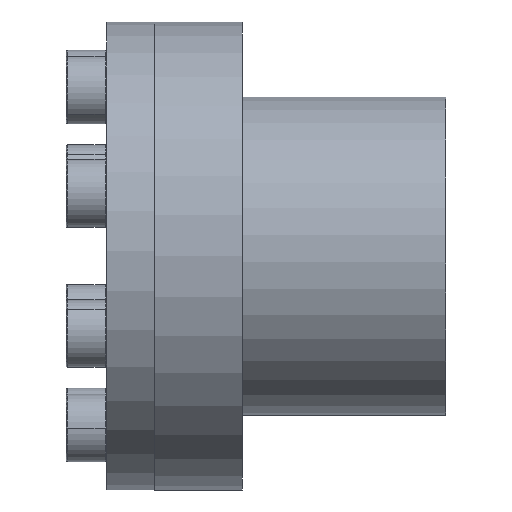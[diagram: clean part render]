
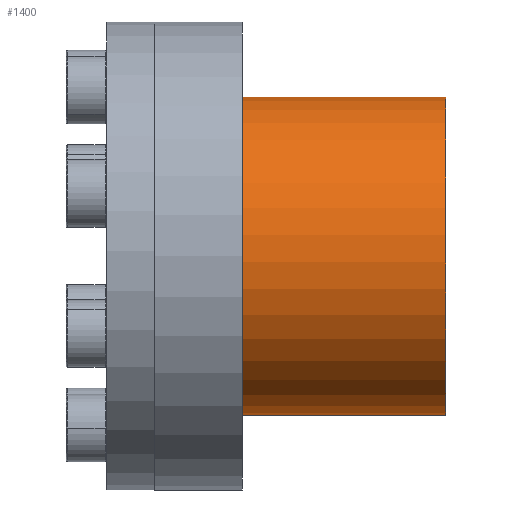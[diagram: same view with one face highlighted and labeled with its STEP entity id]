
A CAD part, front view. The second image highlights one B-rep face of the part: STEP entity #1400.
In plain terms, the highlighted cylindrical face has radius 23.5 mm (diameter 47 mm), a partial arc.
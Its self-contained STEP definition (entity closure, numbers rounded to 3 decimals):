
#742 = CARTESIAN_POINT ( 'NONE',  ( -24., -1.75, 23.435 ) ) ;
#1016 = CYLINDRICAL_SURFACE ( 'NONE', #2386, 23.5 ) ;
#1106 = CARTESIAN_POINT ( 'NONE',  ( 26., 0., 0. ) ) ;
#1176 = FACE_OUTER_BOUND ( 'NONE', #1995, .T. ) ;
#1240 = VERTEX_POINT ( 'NONE', #4963 ) ;
#1284 = VECTOR ( 'NONE', #2826, 1000. ) ;
#1375 = CIRCLE ( 'NONE', #1441, 23.5 ) ;
#1400 = ADVANCED_FACE ( 'NONE', ( #1176 ), #1016, .T. ) ;
#1441 = AXIS2_PLACEMENT_3D ( 'NONE', #1106, #4724, #1632 ) ;
#1457 = LINE ( 'NONE', #4384, #1284 ) ;
#1629 = CIRCLE ( 'NONE', #5012, 23.5 ) ;
#1632 = DIRECTION ( 'NONE',  ( 0., 0., 1. ) ) ;
#1857 = CARTESIAN_POINT ( 'NONE',  ( -4., -1.75, 23.435 ) ) ;
#1995 = EDGE_LOOP ( 'NONE', ( #6369, #2424, #6213, #2476 ) ) ;
#2161 = DIRECTION ( 'NONE',  ( 0., 0., 1. ) ) ;
#2386 = AXIS2_PLACEMENT_3D ( 'NONE', #5341, #4291, #2161 ) ;
#2424 = ORIENTED_EDGE ( 'NONE', *, *, #6151, .T. ) ;
#2476 = ORIENTED_EDGE ( 'NONE', *, *, #2981, .F. ) ;
#2501 = DIRECTION ( 'NONE',  ( -1., 0., 0. ) ) ;
#2826 = DIRECTION ( 'NONE',  ( -1., 0., 0. ) ) ;
#2981 = EDGE_CURVE ( 'NONE', #5504, #5513, #1629, .T. ) ;
#3449 = VECTOR ( 'NONE', #3837, 1000. ) ;
#3672 = CARTESIAN_POINT ( 'NONE',  ( 26., 1.75, 23.435 ) ) ;
#3837 = DIRECTION ( 'NONE',  ( 1., 0., 0. ) ) ;
#4291 = DIRECTION ( 'NONE',  ( -1., 0., 0. ) ) ;
#4384 = CARTESIAN_POINT ( 'NONE',  ( -24., 1.75, 23.435 ) ) ;
#4724 = DIRECTION ( 'NONE',  ( -1., 0., 0. ) ) ;
#4740 = EDGE_CURVE ( 'NONE', #5513, #1240, #4836, .T. ) ;
#4836 = LINE ( 'NONE', #742, #3449 ) ;
#4963 = CARTESIAN_POINT ( 'NONE',  ( 26., -1.75, 23.435 ) ) ;
#5012 = AXIS2_PLACEMENT_3D ( 'NONE', #5600, #2501, #6094 ) ;
#5341 = CARTESIAN_POINT ( 'NONE',  ( -24., 0., 0. ) ) ;
#5504 = VERTEX_POINT ( 'NONE', #6453 ) ;
#5513 = VERTEX_POINT ( 'NONE', #1857 ) ;
#5600 = CARTESIAN_POINT ( 'NONE',  ( -4., 0., 0. ) ) ;
#5753 = VERTEX_POINT ( 'NONE', #3672 ) ;
#6094 = DIRECTION ( 'NONE',  ( 0., 0., 1. ) ) ;
#6151 = EDGE_CURVE ( 'NONE', #5753, #1240, #1375, .T. ) ;
#6213 = ORIENTED_EDGE ( 'NONE', *, *, #4740, .F. ) ;
#6352 = EDGE_CURVE ( 'NONE', #5753, #5504, #1457, .T. ) ;
#6369 = ORIENTED_EDGE ( 'NONE', *, *, #6352, .F. ) ;
#6453 = CARTESIAN_POINT ( 'NONE',  ( -4., 1.75, 23.435 ) ) ;
